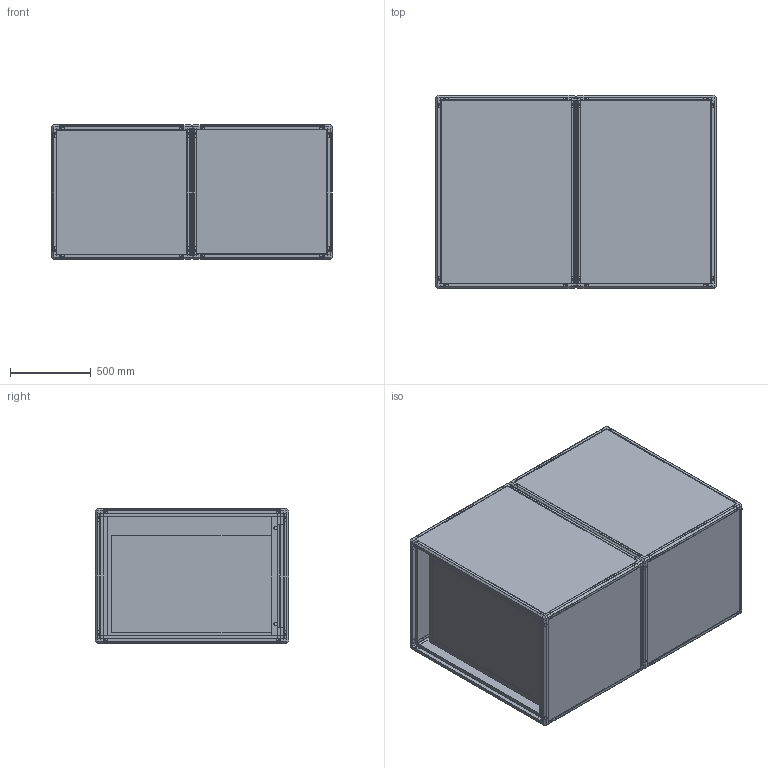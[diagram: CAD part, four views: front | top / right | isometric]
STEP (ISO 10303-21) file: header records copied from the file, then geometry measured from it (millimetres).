
FILE_DESCRIPTION(/* description */ ('STEP AP214'),/* implementation_level */ '2;1');
FILE_NAME(/* name */ '\\NASTMDMARINE\Disegni\Disegni\01_Prodotti\UTA5000\04_File CAD per condivisione\UTA_5000.stp',/* time_stamp */ '2021-11-15T13:48:38+01:00',/* author */ ('CAD 1'),/* organization */ (''),/* preprocessor_version */ 'ST-DEVELOPER v18.1',/* originating_system */ 'Autodesk Inventor 2021',/* authorisation */ '');
FILE_SCHEMA (('AUTOMOTIVE_DESIGN { 1 0 10303 214 3 1 1 }'));
Products named in the file (21): UTA_5000; Batteria_5000; Vaschetta_5000; Flangia_Filtro_Uta_5000; Filtro; Isolante_Batteria_5000; Isolante_Batteria_5000_362; Demister_5000; Omega_Laterale_Demister_5000; Omega_Sup_Inf_Demister_5000; APS_Arosio_30_Piatto_770; APS_Arosio_30_Piatto_1130; Pannelli_Copertura_805_1133; Pannelli_Copertura_805_769; APS_Arosio_PS130-25-0_L730; APS_Arosio_PS130-25-0_769_L730; APS_Arosio_PS130-25-0_Giunto; Giunto_p2; Giunto_p1; APS_Arosio_PS130-25-0_1133_L730; VENTOLA_ZIEL_GR35
Assembly tree (69 placements, depth 3):
  UTA_5000
    Batteria_5000
    Vaschetta_5000
    Flangia_Filtro_Uta_5000
    Filtro
    Isolante_Batteria_5000
    Isolante_Batteria_5000_362  x2
    Pannelli_Copertura_805_1133  x4
    Pannelli_Copertura_805_769  x4
    APS_Arosio_PS130-25-0_L730  x8
    APS_Arosio_PS130-25-0_Giunto  x16
      Giunto_p1
      Giunto_p2
    APS_Arosio_PS130-25-0_1133_L730  x8
    APS_Arosio_PS130-25-0_769_L730  x8
    Demister_5000
    Omega_Laterale_Demister_5000  x2
    Omega_Sup_Inf_Demister_5000  x2
    APS_Arosio_30_Piatto_770  x2
    APS_Arosio_30_Piatto_1130  x2
    VENTOLA_ZIEL_GR35
Bounding box: 1730 x 1193 x 829 mm (x, y, z)
Volume: 523886179.3 mm3; surface area: 32437657.4 mm2
Topology: 114 solids, 115 shells, 5847 faces, 14584 edges, 8650 vertices
Faces by surface type: cylinder 2448, plane 2003, torus 801, sphere 435, bspline 132, cone 28
Full cylindrical faces by diameter (mm): 3.25 x32, 3.3 x1, 4 x97, 4.13 x1, 4.7 x1, 5 x14, 5.5 x8, 6 x1, 6.6 x6, 7 x4, 7.2 x2, 7.4 x1, 8.5 x16, 9 x16, 10 x4, 11 x12, 18 x6, 19.79 x1, 25 x4, 150 x1, 150.8 x1, 154 x1, 156 x1, 156.5 x2, 187 x1, 199 x1, 227.5 x1, 262 x1, 269.2 x1, 275 x1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
Entity records: 52477 total; most frequent: CARTESIAN_POINT 23231, ORIENTED_EDGE 5880, DIRECTION 5836, EDGE_CURVE 2940, AXIS2_PLACEMENT_3D 2205, VERTEX_POINT 1948, LINE 1426, VECTOR 1426
